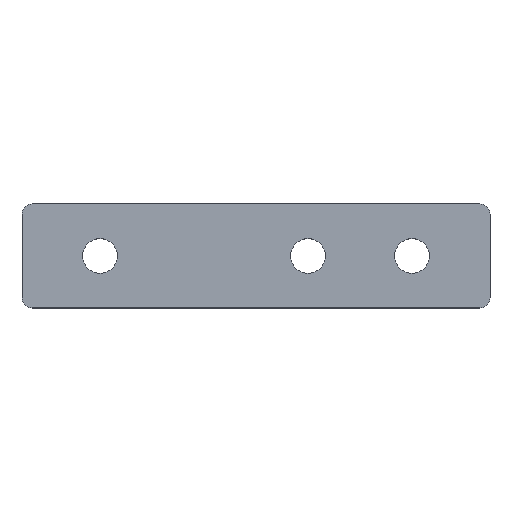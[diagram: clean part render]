
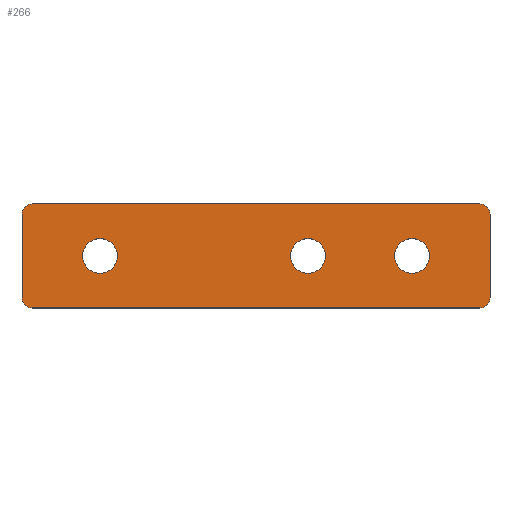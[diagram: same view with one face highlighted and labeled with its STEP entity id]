
A CAD part, top view. The second image highlights one B-rep face of the part: STEP entity #266.
In plain terms, the highlighted planar face has unit normal (0, 0, 1).
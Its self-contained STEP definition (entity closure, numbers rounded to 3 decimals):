
#18=FACE_BOUND('',#74,.T.);
#19=FACE_BOUND('',#75,.T.);
#20=FACE_BOUND('',#76,.T.);
#21=CIRCLE('',#289,2.);
#23=CIRCLE('',#294,2.);
#25=CIRCLE('',#298,3.324);
#26=CIRCLE('',#299,3.324);
#28=CIRCLE('',#302,3.324);
#29=CIRCLE('',#303,3.324);
#31=CIRCLE('',#306,3.324);
#32=CIRCLE('',#307,3.324);
#34=CIRCLE('',#310,2.);
#37=CIRCLE('',#315,2.);
#57=FACE_OUTER_BOUND('',#73,.T.);
#73=EDGE_LOOP('',(#234,#235,#236,#237,#238,#239,#240,#241));
#74=EDGE_LOOP('',(#242,#243));
#75=EDGE_LOOP('',(#244,#245));
#76=EDGE_LOOP('',(#246,#247));
#77=LINE('',#402,#96);
#83=LINE('',#419,#102);
#86=LINE('',#426,#105);
#91=LINE('',#439,#110);
#96=VECTOR('',#321,10.);
#102=VECTOR('',#335,10.);
#105=VECTOR('',#340,10.);
#110=VECTOR('',#353,10.);
#115=VERTEX_POINT('',#400);
#116=VERTEX_POINT('',#401);
#119=VERTEX_POINT('',#409);
#120=VERTEX_POINT('',#410);
#123=VERTEX_POINT('',#418);
#125=VERTEX_POINT('',#424);
#126=VERTEX_POINT('',#425);
#129=VERTEX_POINT('',#433);
#131=VERTEX_POINT('',#442);
#132=VERTEX_POINT('',#443);
#134=VERTEX_POINT('',#450);
#135=VERTEX_POINT('',#451);
#137=VERTEX_POINT('',#458);
#138=VERTEX_POINT('',#459);
#140=EDGE_CURVE('',#115,#116,#77,.T.);
#144=EDGE_CURVE('',#119,#120,#21,.T.);
#148=EDGE_CURVE('',#120,#123,#83,.T.);
#151=EDGE_CURVE('',#125,#126,#86,.T.);
#155=EDGE_CURVE('',#126,#129,#23,.T.);
#158=EDGE_CURVE('',#129,#119,#91,.T.);
#160=EDGE_CURVE('',#131,#132,#25,.T.);
#161=EDGE_CURVE('',#132,#131,#26,.T.);
#164=EDGE_CURVE('',#134,#135,#28,.T.);
#165=EDGE_CURVE('',#135,#134,#29,.T.);
#168=EDGE_CURVE('',#137,#138,#31,.T.);
#169=EDGE_CURVE('',#138,#137,#32,.T.);
#172=EDGE_CURVE('',#123,#115,#34,.T.);
#175=EDGE_CURVE('',#116,#125,#37,.T.);
#234=ORIENTED_EDGE('',*,*,#158,.F.);
#235=ORIENTED_EDGE('',*,*,#155,.F.);
#236=ORIENTED_EDGE('',*,*,#151,.F.);
#237=ORIENTED_EDGE('',*,*,#175,.F.);
#238=ORIENTED_EDGE('',*,*,#140,.F.);
#239=ORIENTED_EDGE('',*,*,#172,.F.);
#240=ORIENTED_EDGE('',*,*,#148,.F.);
#241=ORIENTED_EDGE('',*,*,#144,.F.);
#242=ORIENTED_EDGE('',*,*,#168,.T.);
#243=ORIENTED_EDGE('',*,*,#169,.T.);
#244=ORIENTED_EDGE('',*,*,#164,.T.);
#245=ORIENTED_EDGE('',*,*,#165,.T.);
#246=ORIENTED_EDGE('',*,*,#160,.T.);
#247=ORIENTED_EDGE('',*,*,#161,.T.);
#253=PLANE('',#316);
#266=ADVANCED_FACE('',(#57,#18,#19,#20),#253,.T.);
#289=AXIS2_PLACEMENT_3D('',#411,#327,#328);
#294=AXIS2_PLACEMENT_3D('',#434,#346,#347);
#298=AXIS2_PLACEMENT_3D('',#444,#357,#358);
#299=AXIS2_PLACEMENT_3D('',#445,#359,#360);
#302=AXIS2_PLACEMENT_3D('',#452,#366,#367);
#303=AXIS2_PLACEMENT_3D('',#453,#368,#369);
#306=AXIS2_PLACEMENT_3D('',#460,#375,#376);
#307=AXIS2_PLACEMENT_3D('',#461,#377,#378);
#310=AXIS2_PLACEMENT_3D('',#466,#384,#385);
#315=AXIS2_PLACEMENT_3D('',#471,#394,#395);
#316=AXIS2_PLACEMENT_3D('',#472,#396,#397);
#321=DIRECTION('',(-1.,0.,0.));
#327=DIRECTION('center_axis',(0.,0.,-1.));
#328=DIRECTION('ref_axis',(1.,0.,0.));
#335=DIRECTION('',(0.,-1.,0.));
#340=DIRECTION('',(0.,1.,0.));
#346=DIRECTION('center_axis',(0.,0.,-1.));
#347=DIRECTION('ref_axis',(0.,1.,0.));
#353=DIRECTION('',(1.,0.,0.));
#357=DIRECTION('center_axis',(0.,0.,-1.));
#358=DIRECTION('ref_axis',(1.,0.,0.));
#359=DIRECTION('center_axis',(0.,0.,-1.));
#360=DIRECTION('ref_axis',(1.,0.,0.));
#366=DIRECTION('center_axis',(0.,0.,-1.));
#367=DIRECTION('ref_axis',(1.,0.,0.));
#368=DIRECTION('center_axis',(0.,0.,-1.));
#369=DIRECTION('ref_axis',(1.,0.,0.));
#375=DIRECTION('center_axis',(0.,0.,-1.));
#376=DIRECTION('ref_axis',(1.,0.,0.));
#377=DIRECTION('center_axis',(0.,0.,-1.));
#378=DIRECTION('ref_axis',(1.,0.,0.));
#384=DIRECTION('center_axis',(0.,0.,-1.));
#385=DIRECTION('ref_axis',(0.,-1.,0.));
#394=DIRECTION('center_axis',(0.,0.,-1.));
#395=DIRECTION('ref_axis',(-1.,0.,0.));
#396=DIRECTION('center_axis',(0.,0.,1.));
#397=DIRECTION('ref_axis',(1.,0.,0.));
#400=CARTESIAN_POINT('',(75.064,-16.33,5.));
#401=CARTESIAN_POINT('',(-10.936,-16.33,5.));
#402=CARTESIAN_POINT('',(-10.936,-16.33,5.));
#409=CARTESIAN_POINT('',(75.064,3.67,5.));
#410=CARTESIAN_POINT('',(77.064,1.67,5.));
#411=CARTESIAN_POINT('Origin',(75.064,1.67,5.));
#418=CARTESIAN_POINT('',(77.064,-14.33,5.));
#419=CARTESIAN_POINT('',(77.064,-14.33,5.));
#424=CARTESIAN_POINT('',(-12.936,-14.33,5.));
#425=CARTESIAN_POINT('',(-12.936,1.67,5.));
#426=CARTESIAN_POINT('',(-12.936,1.67,5.));
#433=CARTESIAN_POINT('',(-10.936,3.67,5.));
#434=CARTESIAN_POINT('Origin',(-10.936,1.67,5.));
#439=CARTESIAN_POINT('',(135.064,3.67,5.));
#442=CARTESIAN_POINT('',(5.387,-6.33,5.));
#443=CARTESIAN_POINT('',(-1.26,-6.33,5.));
#444=CARTESIAN_POINT('Origin',(2.064,-6.33,5.));
#445=CARTESIAN_POINT('Origin',(2.064,-6.33,5.));
#450=CARTESIAN_POINT('',(45.387,-6.33,5.));
#451=CARTESIAN_POINT('',(38.74,-6.33,5.));
#452=CARTESIAN_POINT('Origin',(42.064,-6.33,5.));
#453=CARTESIAN_POINT('Origin',(42.064,-6.33,5.));
#458=CARTESIAN_POINT('',(65.387,-6.33,5.));
#459=CARTESIAN_POINT('',(58.74,-6.33,5.));
#460=CARTESIAN_POINT('Origin',(62.064,-6.33,5.));
#461=CARTESIAN_POINT('Origin',(62.064,-6.33,5.));
#466=CARTESIAN_POINT('Origin',(75.064,-14.33,5.));
#471=CARTESIAN_POINT('Origin',(-10.936,-14.33,5.));
#472=CARTESIAN_POINT('Origin',(62.064,-6.33,5.));
